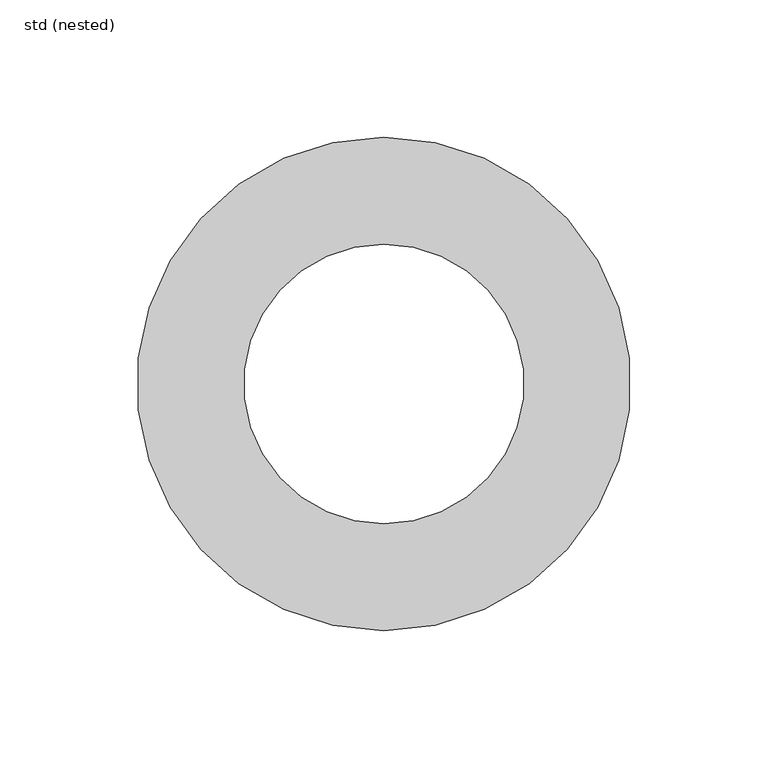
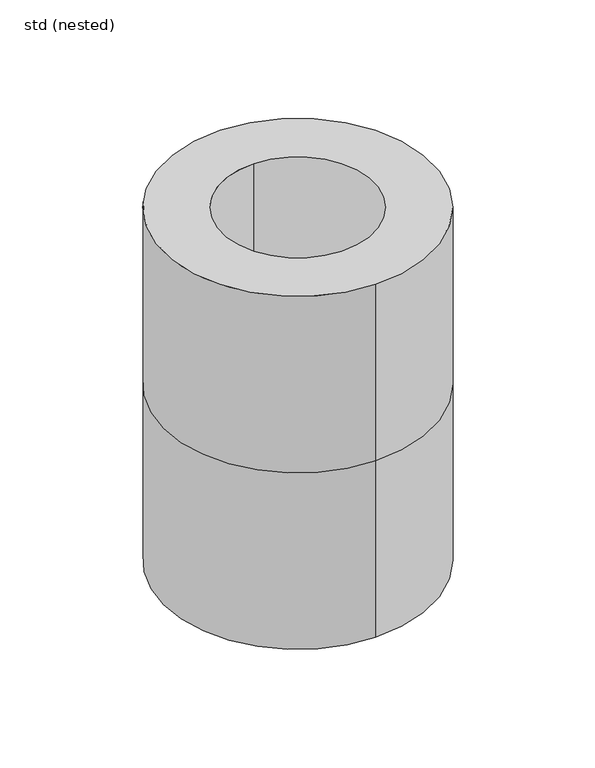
"""IFC4 building model written with IfcOpenShell, lengths in millimetres: sanitary terminal geometry, ZZZ_do not use_PF_RW_insulation_ACO : std (nested)."""

from ifc_helpers import new_model, si_unit, frame, origin, place, context, project, spatial, polyline, circle_curve, source, transform, mapped, element, save
from ifc_brep_helpers import plane_surface, cylinder_surface, revolved_surface, advanced_brep


def std_nested_016ffaeb(model_context):
    return source(origin(), model_context, "Body", "AdvancedBrep", [
        advanced_brep(
        [(0.0, 90.0, 0.0), (0.0, -90.0, 0.0), (0.0, 51.0, 0.0), (0.0, -51.0, 0.0), (0.0, 51.0, -125.0), (0.0, -51.0, -125.0), (0.0, 90.0, -125.0), (0.0, -90.0, -125.0), (0.0, 90.0, -250.0), (0.0, -90.0, -250.0), (0.0, 51.0, -250.0), (0.0, -51.0, -250.0)],
        [
            (0, 1, circle_curve(frame((0.0, 0.0, 0.0), z_axis=(0.0, 0.0, 1.0), x_axis=(0.0, -1.0, 0.0)), 90.0)),
            (1, 0, circle_curve(frame((0.0, 0.0, 0.0), z_axis=(0.0, 0.0, 1.0), x_axis=(0.0, -1.0, 0.0)), 90.0)),
            (2, 3, circle_curve(frame((0.0, 0.0, 0.0), z_axis=(0.0, 0.0, -1.0), x_axis=(0.0, -1.0, 0.0)), 51.0)),
            (3, 2, circle_curve(frame((0.0, 0.0, 0.0), z_axis=(0.0, 0.0, -1.0), x_axis=(0.0, -1.0, 0.0)), 51.0)),
            (2, 4),
            (4, 5, circle_curve(frame((0.0, 0.0, -125.0), z_axis=(0.0, 0.0, -1.0), x_axis=(0.0, -1.0, 0.0)), 51.0)),
            (5, 3),
            (5, 4, circle_curve(frame((0.0, 0.0, -125.0), z_axis=(0.0, 0.0, -1.0), x_axis=(0.0, -1.0, 0.0)), 51.0)),
            (0, 6),
            (6, 7, circle_curve(frame((0.0, 0.0, -125.0), z_axis=(0.0, 0.0, 1.0), x_axis=(0.0, -1.0, 0.0)), 90.0)),
            (7, 1),
            (7, 6, circle_curve(frame((0.0, 0.0, -125.0), z_axis=(0.0, 0.0, 1.0), x_axis=(0.0, -1.0, 0.0)), 90.0)),
            (8, 9, circle_curve(frame((0.0, 0.0, -250.0), z_axis=(0.0, 0.0, -1.0), x_axis=(0.0, -1.0, 0.0)), 90.0)),
            (9, 8, circle_curve(frame((0.0, 0.0, -250.0), z_axis=(0.0, 0.0, -1.0), x_axis=(0.0, -1.0, 0.0)), 90.0)),
            (10, 11, circle_curve(frame((0.0, 0.0, -250.0), z_axis=(0.0, 0.0, 1.0), x_axis=(0.0, -1.0, 0.0)), 51.0)),
            (11, 10, circle_curve(frame((0.0, 0.0, -250.0), z_axis=(0.0, 0.0, 1.0), x_axis=(0.0, -1.0, 0.0)), 51.0)),
            (4, 10),
            (11, 5),
            (6, 8),
            (9, 7),
        ],
        [
            plane_surface(frame((0.0, 0.0, 0.0), z_axis=(0.0, 0.0, 1.0), x_axis=(0.0, -1.0, 0.0))),
            revolved_surface(polyline([(0.0, -51.0, -125.0), (0.0, -51.0, 0.0)]), (0.0, 0.0, 0.0), (0.0, 0.0, -1.0)),
            cylinder_surface(frame((0.0, 0.0, 0.0), z_axis=(0.0, 0.0, 1.0), x_axis=(0.0, -1.0, 0.0)), 90.0),
            plane_surface(frame((0.0, 0.0, -250.0), z_axis=(0.0, 0.0, -1.0), x_axis=(0.0, -1.0, 0.0))),
            revolved_surface(polyline([(0.0, -51.0, -250.0), (0.0, -51.0, -125.0)]), (0.0, 0.0, -125.0), (0.0, 0.0, -1.0)),
            cylinder_surface(frame((0.0, 0.0, -125.0), z_axis=(0.0, 0.0, 1.0), x_axis=(0.0, -1.0, 0.0)), 90.0),
        ],
        [
            (0, [[1, 2], [3, 4]]),
            (1, [[-3, 5, 6, 7]]),
            (1, [[-4, -7, 8, -5]]),
            (2, [[-1, 9, 10, 11]]),
            (2, [[-2, -11, 12, -9]]),
            (3, [[13, 14], [15, 16]]),
            (4, [[-6, 17, -16, 18]]),
            (4, [[-8, -18, -15, -17]]),
            (5, [[-10, 19, -14, 20]]),
            (5, [[-12, -20, -13, -19]]),
        ],
    ),
    ])


if __name__ == "__main__":
    model = new_model("IFC4")
    model_context = context("Model", 3, world=origin())
    ifc_project = project(units=[si_unit("LENGTHUNIT", "METRE", prefix="MILLI")], contexts=[model_context])
    site = spatial("IfcSite", under=ifc_project)
    building = spatial("IfcBuilding", under=site)
    placement = place(None, origin())
    std_nested_shape = std_nested_016ffaeb(model_context)
    element("IfcSanitaryTerminal", 1, ObjectType="ZZZ_do not use_PF_RW_insulation_ACO : std (nested)", at=placement, inside=building, context=model_context, shape_type="MappedRepresentation", body=[
        mapped(std_nested_shape, transform((0.0, 0.0, 0.0), x_axis=(1.0, 0.0, 0.0), y_axis=(0.0, 1.0, 0.0), z_axis=(0.0, 0.0, 1.0))),
    ])
    save(model, "model.ifc")
